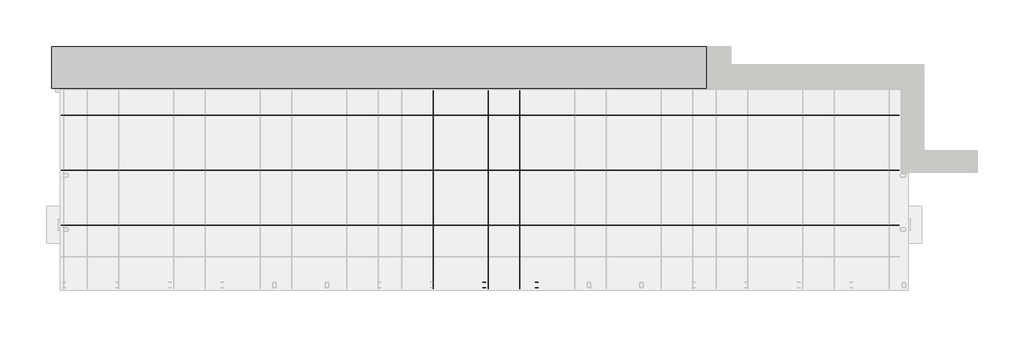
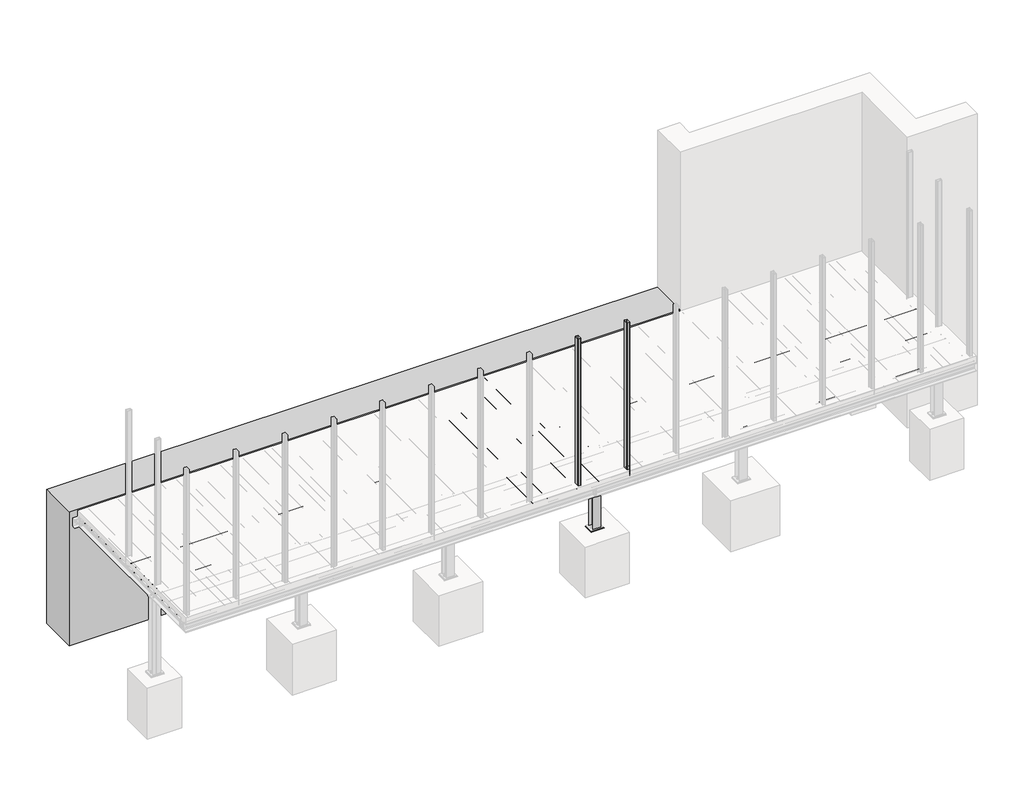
# One storey, part 3 of 36: 54 beams, 3 columns, 1 plate.
"""IFC4 building model written with IfcOpenShell, lengths in millimetres."""

from ifc_helpers import new_model, si_unit, point, frame, frame_2d, origin, place, context, project, spatial, polyline, circle_curve, trimmed, segment, composite_curve, outline, extrude, faceted_brep, element, save

model = new_model("IFC4")

# Units and contexts
model_context = context("Model", 3, world=origin())
ifc_project = project(units=[si_unit("LENGTHUNIT", "METRE", prefix="MILLI")], contexts=[model_context])

# Site, building, storey
site = spatial("IfcSite", under=ifc_project)
building = spatial("IfcBuilding", under=site)
storey = spatial("IfcBuildingStorey", under=building, Name="Základy", Elevation=-1200.0)

# Beams
placement = place(None, origin())
element("IfcBeam", 1, ObjectType="800*2900", at=placement, inside=storey, context=model_context, shape_type="SweptSolid", body=[
    extrude(outline(polyline([(12300.0, 3860.0), (-200.0, 3860.0), (-200.0, 4660.0), (12300.0, 4660.0), (12300.0, 3860.0)])), frame((0.0, 0.0, -2900.0), z_axis=(0.0, 0.0, 1.0), x_axis=(1.0, 0.0, 0.0)), (0.0, 0.0, 1.0), 2900.0),
])
element("IfcBeam", 2, ObjectType="D12", at=placement, inside=storey, context=model_context, shape_type="SweptSolid", body=[
    extrude(outline(composite_curve([segment(trimmed(circle_curve(frame_2d((3579.992562, -139.0)), 6.0), [point((3573.992562, -139.0))], [point((3585.992562, -139.0))], False, "CARTESIAN"), True, "CONTINUOUS"), segment(trimmed(circle_curve(frame_2d((3579.992562, -139.0)), 6.0), [point((3585.992562, -139.0))], [point((3573.992562, -139.0))], False, "CARTESIAN"), True, "CONTINUOUS")], self_intersect=False)), frame((-40.0, 0.0, 0.0), z_axis=(1.0, 0.0, 0.0), x_axis=(0.0, 1.0, 0.0)), (0.0, 0.0, 1.0), 16035.0),
])
element("IfcBeam", 3, ObjectType="D12", at=placement, inside=storey, context=model_context, shape_type="SweptSolid", body=[
    extrude(outline(composite_curve([segment(trimmed(circle_curve(frame_2d((3329.992562, -139.0)), 6.0), [point((3323.992562, -139.0))], [point((3335.992562, -139.0))], False, "CARTESIAN"), True, "CONTINUOUS"), segment(trimmed(circle_curve(frame_2d((3329.992562, -139.0)), 6.0), [point((3335.992562, -139.0))], [point((3323.992562, -139.0))], False, "CARTESIAN"), True, "CONTINUOUS")], self_intersect=False)), frame((-40.0, 0.0, 0.0), z_axis=(1.0, 0.0, 0.0), x_axis=(0.0, 1.0, 0.0)), (0.0, 0.0, 1.0), 16035.0),
])
element("IfcBeam", 4, ObjectType="D12", at=placement, inside=storey, context=model_context, shape_type="SweptSolid", body=[
    extrude(outline(composite_curve([segment(trimmed(circle_curve(frame_2d((3079.992562, -139.0)), 6.0), [point((3073.992562, -139.0))], [point((3085.992562, -139.0))], False, "CARTESIAN"), True, "CONTINUOUS"), segment(trimmed(circle_curve(frame_2d((3079.992562, -139.0)), 6.0), [point((3085.992562, -139.0))], [point((3073.992562, -139.0))], False, "CARTESIAN"), True, "CONTINUOUS")], self_intersect=False)), frame((-40.0, 0.0, 0.0), z_axis=(1.0, 0.0, 0.0), x_axis=(0.0, 1.0, 0.0)), (0.0, 0.0, 1.0), 16035.0),
])
element("IfcBeam", 5, ObjectType="D12", at=placement, inside=storey, context=model_context, shape_type="SweptSolid", body=[
    extrude(outline(composite_curve([segment(trimmed(circle_curve(frame_2d((2829.992562, -139.0)), 6.0), [point((2823.992562, -139.0))], [point((2835.992562, -139.0))], False, "CARTESIAN"), True, "CONTINUOUS"), segment(trimmed(circle_curve(frame_2d((2829.992562, -139.0)), 6.0), [point((2835.992562, -139.0))], [point((2823.992562, -139.0))], False, "CARTESIAN"), True, "CONTINUOUS")], self_intersect=False)), frame((-40.0, 0.0, 0.0), z_axis=(1.0, 0.0, 0.0), x_axis=(0.0, 1.0, 0.0)), (0.0, 0.0, 1.0), 16035.0),
])
element("IfcBeam", 6, ObjectType="D12", at=placement, inside=storey, context=model_context, shape_type="SweptSolid", body=[
    extrude(outline(composite_curve([segment(trimmed(circle_curve(frame_2d((2579.992562, -139.0)), 6.0), [point((2573.992562, -139.0))], [point((2585.992562, -139.0))], False, "CARTESIAN"), True, "CONTINUOUS"), segment(trimmed(circle_curve(frame_2d((2579.992562, -139.0)), 6.0), [point((2585.992562, -139.0))], [point((2573.992562, -139.0))], False, "CARTESIAN"), True, "CONTINUOUS")], self_intersect=False)), frame((-40.0, 0.0, 0.0), z_axis=(1.0, 0.0, 0.0), x_axis=(0.0, 1.0, 0.0)), (0.0, 0.0, 1.0), 16035.0),
])
element("IfcBeam", 7, ObjectType="D12", at=placement, inside=storey, context=model_context, shape_type="SweptSolid", body=[
    extrude(outline(composite_curve([segment(trimmed(circle_curve(frame_2d((2329.992562, -139.0)), 6.0), [point((2323.992562, -139.0))], [point((2335.992562, -139.0))], False, "CARTESIAN"), True, "CONTINUOUS"), segment(trimmed(circle_curve(frame_2d((2329.992562, -139.0)), 6.0), [point((2335.992562, -139.0))], [point((2323.992562, -139.0))], False, "CARTESIAN"), True, "CONTINUOUS")], self_intersect=False)), frame((-40.0, 0.0, 0.0), z_axis=(1.0, 0.0, 0.0), x_axis=(0.0, 1.0, 0.0)), (0.0, 0.0, 1.0), 16035.0),
])
element("IfcBeam", 8, ObjectType="D12", at=placement, inside=storey, context=model_context, shape_type="SweptSolid", body=[
    extrude(outline(composite_curve([segment(trimmed(circle_curve(frame_2d((1829.992562, -139.0)), 6.0), [point((1823.992562, -139.0))], [point((1835.992562, -139.0))], False, "CARTESIAN"), True, "CONTINUOUS"), segment(trimmed(circle_curve(frame_2d((1829.992562, -139.0)), 6.0), [point((1835.992562, -139.0))], [point((1823.992562, -139.0))], False, "CARTESIAN"), True, "CONTINUOUS")], self_intersect=False)), frame((-40.0, 0.0, 0.0), z_axis=(1.0, 0.0, 0.0), x_axis=(0.0, 1.0, 0.0)), (0.0, 0.0, 1.0), 16180.0),
])
element("IfcBeam", 9, ObjectType="D12", at=placement, inside=storey, context=model_context, shape_type="SweptSolid", body=[
    extrude(outline(composite_curve([segment(trimmed(circle_curve(frame_2d((1579.992562, -139.0)), 6.0), [point((1573.992562, -139.0))], [point((1585.992562, -139.0))], False, "CARTESIAN"), True, "CONTINUOUS"), segment(trimmed(circle_curve(frame_2d((1579.992562, -139.0)), 6.0), [point((1585.992562, -139.0))], [point((1573.992562, -139.0))], False, "CARTESIAN"), True, "CONTINUOUS")], self_intersect=False)), frame((-40.0, 0.0, 0.0), z_axis=(1.0, 0.0, 0.0), x_axis=(0.0, 1.0, 0.0)), (0.0, 0.0, 1.0), 16180.0),
])
element("IfcBeam", 10, ObjectType="D12", at=placement, inside=storey, context=model_context, shape_type="SweptSolid", body=[
    extrude(outline(composite_curve([segment(trimmed(circle_curve(frame_2d((1329.992562, -139.0)), 6.0), [point((1323.992562, -139.0))], [point((1335.992562, -139.0))], False, "CARTESIAN"), True, "CONTINUOUS"), segment(trimmed(circle_curve(frame_2d((1329.992562, -139.0)), 6.0), [point((1335.992562, -139.0))], [point((1323.992562, -139.0))], False, "CARTESIAN"), True, "CONTINUOUS")], self_intersect=False)), frame((-40.0, 0.0, 0.0), z_axis=(1.0, 0.0, 0.0), x_axis=(0.0, 1.0, 0.0)), (0.0, 0.0, 1.0), 16180.0),
])
element("IfcBeam", 11, ObjectType="D12", at=placement, inside=storey, context=model_context, shape_type="SweptSolid", body=[
    extrude(outline(composite_curve([segment(trimmed(circle_curve(frame_2d((1079.992562, -139.0)), 6.0), [point((1073.992562, -139.0))], [point((1085.992562, -139.0))], False, "CARTESIAN"), True, "CONTINUOUS"), segment(trimmed(circle_curve(frame_2d((1079.992562, -139.0)), 6.0), [point((1085.992562, -139.0))], [point((1073.992562, -139.0))], False, "CARTESIAN"), True, "CONTINUOUS")], self_intersect=False)), frame((-40.0, 0.0, 0.0), z_axis=(1.0, 0.0, 0.0), x_axis=(0.0, 1.0, 0.0)), (0.0, 0.0, 1.0), 16180.0),
])
element("IfcBeam", 12, ObjectType="D12", at=placement, inside=storey, context=model_context, shape_type="SweptSolid", body=[
    extrude(outline(composite_curve([segment(trimmed(circle_curve(frame_2d((829.992562, -139.0)), 6.0), [point((823.992562, -139.0))], [point((835.992562, -139.0))], False, "CARTESIAN"), True, "CONTINUOUS"), segment(trimmed(circle_curve(frame_2d((829.992562, -139.0)), 6.0), [point((835.992562, -139.0))], [point((823.992562, -139.0))], False, "CARTESIAN"), True, "CONTINUOUS")], self_intersect=False)), frame((-40.0, 0.0, 0.0), z_axis=(1.0, 0.0, 0.0), x_axis=(0.0, 1.0, 0.0)), (0.0, 0.0, 1.0), 16180.0),
])
element("IfcBeam", 13, ObjectType="D12", at=placement, inside=storey, context=model_context, shape_type="SweptSolid", body=[
    extrude(outline(composite_curve([segment(trimmed(circle_curve(frame_2d((579.992562, -139.0)), 6.0), [point((573.992562, -139.0))], [point((585.992562, -139.0))], False, "CARTESIAN"), True, "CONTINUOUS"), segment(trimmed(circle_curve(frame_2d((579.992562, -139.0)), 6.0), [point((585.992562, -139.0))], [point((573.992562, -139.0))], False, "CARTESIAN"), True, "CONTINUOUS")], self_intersect=False)), frame((-40.0, 0.0, 0.0), z_axis=(1.0, 0.0, 0.0), x_axis=(0.0, 1.0, 0.0)), (0.0, 0.0, 1.0), 16180.0),
])
element("IfcBeam", 14, ObjectType="D12", at=placement, inside=storey, context=model_context, shape_type="SweptSolid", body=[
    extrude(outline(composite_curve([segment(trimmed(circle_curve(frame_2d((329.992562, -139.0)), 6.0), [point((323.992562, -139.0))], [point((335.992562, -139.0))], False, "CARTESIAN"), True, "CONTINUOUS"), segment(trimmed(circle_curve(frame_2d((329.992562, -139.0)), 6.0), [point((335.992562, -139.0))], [point((323.992562, -139.0))], False, "CARTESIAN"), True, "CONTINUOUS")], self_intersect=False)), frame((-40.0, 0.0, 0.0), z_axis=(1.0, 0.0, 0.0), x_axis=(0.0, 1.0, 0.0)), (0.0, 0.0, 1.0), 16180.0),
])
element("IfcBeam", 15, ObjectType="D8", at=placement, inside=storey, context=model_context, shape_type="SweptSolid", body=[
    extrude(outline(composite_curve([segment(trimmed(circle_curve(frame_2d((3799.9975821, -57.0)), 4.0), [point((3795.9975821, -57.0))], [point((3803.9975821, -57.0))], False, "CARTESIAN"), True, "CONTINUOUS"), segment(trimmed(circle_curve(frame_2d((3799.9975821, -57.0)), 4.0), [point((3803.9975821, -57.0))], [point((3795.9975821, -57.0))], False, "CARTESIAN"), True, "CONTINUOUS")], self_intersect=False)), frame((-15.0, 0.0, 0.0), z_axis=(1.0, 0.0, 0.0), x_axis=(0.0, 1.0, 0.0)), (0.0, 0.0, 1.0), 15985.0),
])
element("IfcBeam", 16, ObjectType="D8", at=placement, inside=storey, context=model_context, shape_type="SweptSolid", body=[
    extrude(outline(composite_curve([segment(trimmed(circle_curve(frame_2d((3649.9975821, -57.0)), 4.0), [point((3645.9975821, -57.0))], [point((3653.9975821, -57.0))], False, "CARTESIAN"), True, "CONTINUOUS"), segment(trimmed(circle_curve(frame_2d((3649.9975821, -57.0)), 4.0), [point((3653.9975821, -57.0))], [point((3645.9975821, -57.0))], False, "CARTESIAN"), True, "CONTINUOUS")], self_intersect=False)), frame((-15.0, 0.0, 0.0), z_axis=(1.0, 0.0, 0.0), x_axis=(0.0, 1.0, 0.0)), (0.0, 0.0, 1.0), 15985.0),
])
element("IfcBeam", 17, ObjectType="D8", at=placement, inside=storey, context=model_context, shape_type="SweptSolid", body=[
    extrude(outline(composite_curve([segment(trimmed(circle_curve(frame_2d((3499.9975821, -57.0)), 4.0), [point((3495.9975821, -57.0))], [point((3503.9975821, -57.0))], False, "CARTESIAN"), True, "CONTINUOUS"), segment(trimmed(circle_curve(frame_2d((3499.9975821, -57.0)), 4.0), [point((3503.9975821, -57.0))], [point((3495.9975821, -57.0))], False, "CARTESIAN"), True, "CONTINUOUS")], self_intersect=False)), frame((-15.0, 0.0, 0.0), z_axis=(1.0, 0.0, 0.0), x_axis=(0.0, 1.0, 0.0)), (0.0, 0.0, 1.0), 15985.0),
])
element("IfcBeam", 18, ObjectType="D8", at=placement, inside=storey, context=model_context, shape_type="SweptSolid", body=[
    extrude(outline(composite_curve([segment(trimmed(circle_curve(frame_2d((3349.9975821, -57.0)), 4.0), [point((3345.9975821, -57.0))], [point((3353.9975821, -57.0))], False, "CARTESIAN"), True, "CONTINUOUS"), segment(trimmed(circle_curve(frame_2d((3349.9975821, -57.0)), 4.0), [point((3353.9975821, -57.0))], [point((3345.9975821, -57.0))], False, "CARTESIAN"), True, "CONTINUOUS")], self_intersect=False)), frame((-15.0, 0.0, 0.0), z_axis=(1.0, 0.0, 0.0), x_axis=(0.0, 1.0, 0.0)), (0.0, 0.0, 1.0), 15985.0),
])
element("IfcBeam", 19, ObjectType="D8", at=placement, inside=storey, context=model_context, shape_type="SweptSolid", body=[
    extrude(outline(composite_curve([segment(trimmed(circle_curve(frame_2d((3199.9975821, -57.0)), 4.0), [point((3195.9975821, -57.0))], [point((3203.9975821, -57.0))], False, "CARTESIAN"), True, "CONTINUOUS"), segment(trimmed(circle_curve(frame_2d((3199.9975821, -57.0)), 4.0), [point((3203.9975821, -57.0))], [point((3195.9975821, -57.0))], False, "CARTESIAN"), True, "CONTINUOUS")], self_intersect=False)), frame((-15.0, 0.0, 0.0), z_axis=(1.0, 0.0, 0.0), x_axis=(0.0, 1.0, 0.0)), (0.0, 0.0, 1.0), 15985.0),
])
element("IfcBeam", 20, ObjectType="D8", at=placement, inside=storey, context=model_context, shape_type="SweptSolid", body=[
    extrude(outline(composite_curve([segment(trimmed(circle_curve(frame_2d((3049.9975821, -57.0)), 4.0), [point((3045.9975821, -57.0))], [point((3053.9975821, -57.0))], False, "CARTESIAN"), True, "CONTINUOUS"), segment(trimmed(circle_curve(frame_2d((3049.9975821, -57.0)), 4.0), [point((3053.9975821, -57.0))], [point((3045.9975821, -57.0))], False, "CARTESIAN"), True, "CONTINUOUS")], self_intersect=False)), frame((-15.0, 0.0, 0.0), z_axis=(1.0, 0.0, 0.0), x_axis=(0.0, 1.0, 0.0)), (0.0, 0.0, 1.0), 15985.0),
])
element("IfcBeam", 21, ObjectType="D8", at=placement, inside=storey, context=model_context, shape_type="SweptSolid", body=[
    extrude(outline(composite_curve([segment(trimmed(circle_curve(frame_2d((2899.9975821, -57.0)), 4.0), [point((2895.9975821, -57.0))], [point((2903.9975821, -57.0))], False, "CARTESIAN"), True, "CONTINUOUS"), segment(trimmed(circle_curve(frame_2d((2899.9975821, -57.0)), 4.0), [point((2903.9975821, -57.0))], [point((2895.9975821, -57.0))], False, "CARTESIAN"), True, "CONTINUOUS")], self_intersect=False)), frame((-15.0, 0.0, 0.0), z_axis=(1.0, 0.0, 0.0), x_axis=(0.0, 1.0, 0.0)), (0.0, 0.0, 1.0), 15985.0),
])
element("IfcBeam", 22, ObjectType="D8", at=placement, inside=storey, context=model_context, shape_type="SweptSolid", body=[
    extrude(outline(composite_curve([segment(trimmed(circle_curve(frame_2d((2749.9975821, -57.0)), 4.0), [point((2745.9975821, -57.0))], [point((2753.9975821, -57.0))], False, "CARTESIAN"), True, "CONTINUOUS"), segment(trimmed(circle_curve(frame_2d((2749.9975821, -57.0)), 4.0), [point((2753.9975821, -57.0))], [point((2745.9975821, -57.0))], False, "CARTESIAN"), True, "CONTINUOUS")], self_intersect=False)), frame((-15.0, 0.0, 0.0), z_axis=(1.0, 0.0, 0.0), x_axis=(0.0, 1.0, 0.0)), (0.0, 0.0, 1.0), 15985.0),
])
element("IfcBeam", 23, ObjectType="D8", at=placement, inside=storey, context=model_context, shape_type="SweptSolid", body=[
    extrude(outline(composite_curve([segment(trimmed(circle_curve(frame_2d((2599.9975821, -57.0)), 4.0), [point((2595.9975821, -57.0))], [point((2603.9975821, -57.0))], False, "CARTESIAN"), True, "CONTINUOUS"), segment(trimmed(circle_curve(frame_2d((2599.9975821, -57.0)), 4.0), [point((2603.9975821, -57.0))], [point((2595.9975821, -57.0))], False, "CARTESIAN"), True, "CONTINUOUS")], self_intersect=False)), frame((-15.0, 0.0, 0.0), z_axis=(1.0, 0.0, 0.0), x_axis=(0.0, 1.0, 0.0)), (0.0, 0.0, 1.0), 15985.0),
])
element("IfcBeam", 24, ObjectType="D8", at=placement, inside=storey, context=model_context, shape_type="SweptSolid", body=[
    extrude(outline(composite_curve([segment(trimmed(circle_curve(frame_2d((2449.9975821, -57.0)), 4.0), [point((2445.9975821, -57.0))], [point((2453.9975821, -57.0))], False, "CARTESIAN"), True, "CONTINUOUS"), segment(trimmed(circle_curve(frame_2d((2449.9975821, -57.0)), 4.0), [point((2453.9975821, -57.0))], [point((2445.9975821, -57.0))], False, "CARTESIAN"), True, "CONTINUOUS")], self_intersect=False)), frame((-15.0, 0.0, 0.0), z_axis=(1.0, 0.0, 0.0), x_axis=(0.0, 1.0, 0.0)), (0.0, 0.0, 1.0), 15985.0),
])
element("IfcBeam", 25, ObjectType="D8", at=placement, inside=storey, context=model_context, shape_type="SweptSolid", body=[
    extrude(outline(composite_curve([segment(trimmed(circle_curve(frame_2d((2299.9975821, -57.0)), 4.0), [point((2295.9975821, -57.0))], [point((2303.9975821, -57.0))], False, "CARTESIAN"), True, "CONTINUOUS"), segment(trimmed(circle_curve(frame_2d((2299.9975821, -57.0)), 4.0), [point((2303.9975821, -57.0))], [point((2295.9975821, -57.0))], False, "CARTESIAN"), True, "CONTINUOUS")], self_intersect=False)), frame((-15.0, 0.0, 0.0), z_axis=(1.0, 0.0, 0.0), x_axis=(0.0, 1.0, 0.0)), (0.0, 0.0, 1.0), 15985.0),
])
element("IfcBeam", 26, ObjectType="D8", at=placement, inside=storey, context=model_context, shape_type="SweptSolid", body=[
    extrude(outline(composite_curve([segment(trimmed(circle_curve(frame_2d((2149.9975821, -57.0)), 4.0), [point((2145.9975821, -57.0))], [point((2153.9975821, -57.0))], False, "CARTESIAN"), True, "CONTINUOUS"), segment(trimmed(circle_curve(frame_2d((2149.9975821, -57.0)), 4.0), [point((2153.9975821, -57.0))], [point((2145.9975821, -57.0))], False, "CARTESIAN"), True, "CONTINUOUS")], self_intersect=False)), frame((-15.0, 0.0, 0.0), z_axis=(1.0, 0.0, 0.0), x_axis=(0.0, 1.0, 0.0)), (0.0, 0.0, 1.0), 15985.0),
])
element("IfcBeam", 27, ObjectType="D8", at=placement, inside=storey, context=model_context, shape_type="SweptSolid", body=[
    extrude(outline(composite_curve([segment(trimmed(circle_curve(frame_2d((1999.9975821, -57.0)), 4.0), [point((1995.9975821, -57.0))], [point((2003.9975821, -57.0))], False, "CARTESIAN"), True, "CONTINUOUS"), segment(trimmed(circle_curve(frame_2d((1999.9975821, -57.0)), 4.0), [point((2003.9975821, -57.0))], [point((1995.9975821, -57.0))], False, "CARTESIAN"), True, "CONTINUOUS")], self_intersect=False)), frame((-15.0, 0.0, 0.0), z_axis=(1.0, 0.0, 0.0), x_axis=(0.0, 1.0, 0.0)), (0.0, 0.0, 1.0), 15985.0),
])
element("IfcBeam", 28, ObjectType="D8", at=placement, inside=storey, context=model_context, shape_type="SweptSolid", body=[
    extrude(outline(composite_curve([segment(trimmed(circle_curve(frame_2d((1849.9975821, -57.0)), 4.0), [point((1845.9975821, -57.0))], [point((1853.9975821, -57.0))], False, "CARTESIAN"), True, "CONTINUOUS"), segment(trimmed(circle_curve(frame_2d((1849.9975821, -57.0)), 4.0), [point((1853.9975821, -57.0))], [point((1845.9975821, -57.0))], False, "CARTESIAN"), True, "CONTINUOUS")], self_intersect=False)), frame((-15.0, 0.0, 0.0), z_axis=(1.0, 0.0, 0.0), x_axis=(0.0, 1.0, 0.0)), (0.0, 0.0, 1.0), 15985.0),
])
element("IfcBeam", 29, ObjectType="D8", at=placement, inside=storey, context=model_context, shape_type="SweptSolid", body=[
    extrude(outline(composite_curve([segment(trimmed(circle_curve(frame_2d((1699.9975821, -57.0)), 4.0), [point((1695.9975821, -57.0))], [point((1703.9975821, -57.0))], False, "CARTESIAN"), True, "CONTINUOUS"), segment(trimmed(circle_curve(frame_2d((1699.9975821, -57.0)), 4.0), [point((1703.9975821, -57.0))], [point((1695.9975821, -57.0))], False, "CARTESIAN"), True, "CONTINUOUS")], self_intersect=False)), frame((-15.0, 0.0, 0.0), z_axis=(1.0, 0.0, 0.0), x_axis=(0.0, 1.0, 0.0)), (0.0, 0.0, 1.0), 15985.0),
])
element("IfcBeam", 30, ObjectType="D8", at=placement, inside=storey, context=model_context, shape_type="SweptSolid", body=[
    extrude(outline(composite_curve([segment(trimmed(circle_curve(frame_2d((1549.9975821, -57.0)), 4.0), [point((1545.9975821, -57.0))], [point((1553.9975821, -57.0))], False, "CARTESIAN"), True, "CONTINUOUS"), segment(trimmed(circle_curve(frame_2d((1549.9975821, -57.0)), 4.0), [point((1553.9975821, -57.0))], [point((1545.9975821, -57.0))], False, "CARTESIAN"), True, "CONTINUOUS")], self_intersect=False)), frame((-15.0, 0.0, 0.0), z_axis=(1.0, 0.0, 0.0), x_axis=(0.0, 1.0, 0.0)), (0.0, 0.0, 1.0), 15985.0),
])
element("IfcBeam", 31, ObjectType="D8", at=placement, inside=storey, context=model_context, shape_type="SweptSolid", body=[
    extrude(outline(composite_curve([segment(trimmed(circle_curve(frame_2d((1399.9975821, -57.0)), 4.0), [point((1395.9975821, -57.0))], [point((1403.9975821, -57.0))], False, "CARTESIAN"), True, "CONTINUOUS"), segment(trimmed(circle_curve(frame_2d((1399.9975821, -57.0)), 4.0), [point((1403.9975821, -57.0))], [point((1395.9975821, -57.0))], False, "CARTESIAN"), True, "CONTINUOUS")], self_intersect=False)), frame((-15.0, 0.0, 0.0), z_axis=(1.0, 0.0, 0.0), x_axis=(0.0, 1.0, 0.0)), (0.0, 0.0, 1.0), 15985.0),
])
element("IfcBeam", 32, ObjectType="D8", at=placement, inside=storey, context=model_context, shape_type="SweptSolid", body=[
    extrude(outline(composite_curve([segment(trimmed(circle_curve(frame_2d((1249.9975821, -57.0)), 4.0), [point((1245.9975821, -57.0))], [point((1253.9975821, -57.0))], False, "CARTESIAN"), True, "CONTINUOUS"), segment(trimmed(circle_curve(frame_2d((1249.9975821, -57.0)), 4.0), [point((1253.9975821, -57.0))], [point((1245.9975821, -57.0))], False, "CARTESIAN"), True, "CONTINUOUS")], self_intersect=False)), frame((-15.0, 0.0, 0.0), z_axis=(1.0, 0.0, 0.0), x_axis=(0.0, 1.0, 0.0)), (0.0, 0.0, 1.0), 15985.0),
])
element("IfcBeam", 33, ObjectType="D8", at=placement, inside=storey, context=model_context, shape_type="SweptSolid", body=[
    extrude(outline(composite_curve([segment(trimmed(circle_curve(frame_2d((1099.9975821, -57.0)), 4.0), [point((1095.9975821, -57.0))], [point((1103.9975821, -57.0))], False, "CARTESIAN"), True, "CONTINUOUS"), segment(trimmed(circle_curve(frame_2d((1099.9975821, -57.0)), 4.0), [point((1103.9975821, -57.0))], [point((1095.9975821, -57.0))], False, "CARTESIAN"), True, "CONTINUOUS")], self_intersect=False)), frame((-15.0, 0.0, 0.0), z_axis=(1.0, 0.0, 0.0), x_axis=(0.0, 1.0, 0.0)), (0.0, 0.0, 1.0), 15985.0),
])
element("IfcBeam", 34, ObjectType="D8", at=placement, inside=storey, context=model_context, shape_type="SweptSolid", body=[
    extrude(outline(composite_curve([segment(trimmed(circle_curve(frame_2d((-49.0, 7077.5)), 4.0), [point((-49.0, 7073.5))], [point((-49.0, 7081.5))], False, "CARTESIAN"), True, "CONTINUOUS"), segment(trimmed(circle_curve(frame_2d((-49.0, 7077.5)), 4.0), [point((-49.0, 7081.5))], [point((-49.0, 7073.5))], False, "CARTESIAN"), True, "CONTINUOUS")], self_intersect=False)), frame((0.0, 35.0, 0.0), z_axis=(0.0, 1.0, 0.0), x_axis=(0.0, 0.0, 1.0)), (0.0, 0.0, 1.0), 3780.0),
])
element("IfcBeam", 35, ObjectType="D8", at=placement, inside=storey, context=model_context, shape_type="SweptSolid", body=[
    extrude(outline(composite_curve([segment(trimmed(circle_curve(frame_2d((-49.0, 7227.5)), 4.0), [point((-49.0, 7223.5))], [point((-49.0, 7231.5))], False, "CARTESIAN"), True, "CONTINUOUS"), segment(trimmed(circle_curve(frame_2d((-49.0, 7227.5)), 4.0), [point((-49.0, 7231.5))], [point((-49.0, 7223.5))], False, "CARTESIAN"), True, "CONTINUOUS")], self_intersect=False)), frame((0.0, 35.0, 0.0), z_axis=(0.0, 1.0, 0.0), x_axis=(0.0, 0.0, 1.0)), (0.0, 0.0, 1.0), 3780.0),
])
element("IfcBeam", 36, ObjectType="D8", at=placement, inside=storey, context=model_context, shape_type="SweptSolid", body=[
    extrude(outline(composite_curve([segment(trimmed(circle_curve(frame_2d((-49.0, 7377.5)), 4.0), [point((-49.0, 7373.5))], [point((-49.0, 7381.5))], False, "CARTESIAN"), True, "CONTINUOUS"), segment(trimmed(circle_curve(frame_2d((-49.0, 7377.5)), 4.0), [point((-49.0, 7381.5))], [point((-49.0, 7373.5))], False, "CARTESIAN"), True, "CONTINUOUS")], self_intersect=False)), frame((0.0, 35.0, 0.0), z_axis=(0.0, 1.0, 0.0), x_axis=(0.0, 0.0, 1.0)), (0.0, 0.0, 1.0), 3780.0),
])
element("IfcBeam", 37, ObjectType="D8", at=placement, inside=storey, context=model_context, shape_type="SweptSolid", body=[
    extrude(outline(composite_curve([segment(trimmed(circle_curve(frame_2d((-49.0, 7527.5)), 4.0), [point((-49.0, 7523.5))], [point((-49.0, 7531.5))], False, "CARTESIAN"), True, "CONTINUOUS"), segment(trimmed(circle_curve(frame_2d((-49.0, 7527.5)), 4.0), [point((-49.0, 7531.5))], [point((-49.0, 7523.5))], False, "CARTESIAN"), True, "CONTINUOUS")], self_intersect=False)), frame((0.0, 35.0, 0.0), z_axis=(0.0, 1.0, 0.0), x_axis=(0.0, 0.0, 1.0)), (0.0, 0.0, 1.0), 3780.0),
])
element("IfcBeam", 38, ObjectType="D8", at=placement, inside=storey, context=model_context, shape_type="SweptSolid", body=[
    extrude(outline(composite_curve([segment(trimmed(circle_curve(frame_2d((-49.0, 7677.5)), 4.0), [point((-49.0, 7673.5))], [point((-49.0, 7681.5))], False, "CARTESIAN"), True, "CONTINUOUS"), segment(trimmed(circle_curve(frame_2d((-49.0, 7677.5)), 4.0), [point((-49.0, 7681.5))], [point((-49.0, 7673.5))], False, "CARTESIAN"), True, "CONTINUOUS")], self_intersect=False)), frame((0.0, 35.0, 0.0), z_axis=(0.0, 1.0, 0.0), x_axis=(0.0, 0.0, 1.0)), (0.0, 0.0, 1.0), 3780.0),
])
element("IfcBeam", 39, ObjectType="D8", at=placement, inside=storey, context=model_context, shape_type="SweptSolid", body=[
    extrude(outline(composite_curve([segment(trimmed(circle_curve(frame_2d((-49.0, 7827.5)), 4.0), [point((-49.0, 7823.5))], [point((-49.0, 7831.5))], False, "CARTESIAN"), True, "CONTINUOUS"), segment(trimmed(circle_curve(frame_2d((-49.0, 7827.5)), 4.0), [point((-49.0, 7831.5))], [point((-49.0, 7823.5))], False, "CARTESIAN"), True, "CONTINUOUS")], self_intersect=False)), frame((0.0, 35.0, 0.0), z_axis=(0.0, 1.0, 0.0), x_axis=(0.0, 0.0, 1.0)), (0.0, 0.0, 1.0), 3780.0),
])
element("IfcBeam", 40, ObjectType="D8", at=placement, inside=storey, context=model_context, shape_type="SweptSolid", body=[
    extrude(outline(composite_curve([segment(trimmed(circle_curve(frame_2d((-49.0, 7977.5)), 4.0), [point((-49.0, 7973.5))], [point((-49.0, 7981.5))], False, "CARTESIAN"), True, "CONTINUOUS"), segment(trimmed(circle_curve(frame_2d((-49.0, 7977.5)), 4.0), [point((-49.0, 7981.5))], [point((-49.0, 7973.5))], False, "CARTESIAN"), True, "CONTINUOUS")], self_intersect=False)), frame((0.0, 35.0, 0.0), z_axis=(0.0, 1.0, 0.0), x_axis=(0.0, 0.0, 1.0)), (0.0, 0.0, 1.0), 3780.0),
])
element("IfcBeam", 41, ObjectType="D8", at=placement, inside=storey, context=model_context, shape_type="SweptSolid", body=[
    extrude(outline(composite_curve([segment(trimmed(circle_curve(frame_2d((-49.0, 8127.5)), 4.0), [point((-49.0, 8123.5))], [point((-49.0, 8131.5))], False, "CARTESIAN"), True, "CONTINUOUS"), segment(trimmed(circle_curve(frame_2d((-49.0, 8127.5)), 4.0), [point((-49.0, 8131.5))], [point((-49.0, 8123.5))], False, "CARTESIAN"), True, "CONTINUOUS")], self_intersect=False)), frame((0.0, 35.0, 0.0), z_axis=(0.0, 1.0, 0.0), x_axis=(0.0, 0.0, 1.0)), (0.0, 0.0, 1.0), 3780.0),
])
element("IfcBeam", 42, ObjectType="D8", at=placement, inside=storey, context=model_context, shape_type="SweptSolid", body=[
    extrude(outline(composite_curve([segment(trimmed(circle_curve(frame_2d((-49.0, 8277.5)), 4.0), [point((-49.0, 8273.5))], [point((-49.0, 8281.5))], False, "CARTESIAN"), True, "CONTINUOUS"), segment(trimmed(circle_curve(frame_2d((-49.0, 8277.5)), 4.0), [point((-49.0, 8281.5))], [point((-49.0, 8273.5))], False, "CARTESIAN"), True, "CONTINUOUS")], self_intersect=False)), frame((0.0, 35.0, 0.0), z_axis=(0.0, 1.0, 0.0), x_axis=(0.0, 0.0, 1.0)), (0.0, 0.0, 1.0), 3780.0),
])
element("IfcBeam", 43, ObjectType="D8", at=placement, inside=storey, context=model_context, shape_type="SweptSolid", body=[
    extrude(outline(composite_curve([segment(trimmed(circle_curve(frame_2d((-49.0, 8427.5)), 4.0), [point((-49.0, 8423.5))], [point((-49.0, 8431.5))], False, "CARTESIAN"), True, "CONTINUOUS"), segment(trimmed(circle_curve(frame_2d((-49.0, 8427.5)), 4.0), [point((-49.0, 8431.5))], [point((-49.0, 8423.5))], False, "CARTESIAN"), True, "CONTINUOUS")], self_intersect=False)), frame((0.0, 35.0, 0.0), z_axis=(0.0, 1.0, 0.0), x_axis=(0.0, 0.0, 1.0)), (0.0, 0.0, 1.0), 3780.0),
])
element("IfcBeam", 44, ObjectType="D8", at=placement, inside=storey, context=model_context, shape_type="SweptSolid", body=[
    extrude(outline(composite_curve([segment(trimmed(circle_curve(frame_2d((-49.0, 8577.5)), 4.0), [point((-49.0, 8573.5))], [point((-49.0, 8581.5))], False, "CARTESIAN"), True, "CONTINUOUS"), segment(trimmed(circle_curve(frame_2d((-49.0, 8577.5)), 4.0), [point((-49.0, 8581.5))], [point((-49.0, 8573.5))], False, "CARTESIAN"), True, "CONTINUOUS")], self_intersect=False)), frame((0.0, 35.0, 0.0), z_axis=(0.0, 1.0, 0.0), x_axis=(0.0, 0.0, 1.0)), (0.0, 0.0, 1.0), 3780.0),
])
element("IfcBeam", 45, ObjectType="D8", at=placement, inside=storey, context=model_context, shape_type="SweptSolid", body=[
    extrude(outline(composite_curve([segment(trimmed(circle_curve(frame_2d((-49.0, 8727.5)), 4.0), [point((-49.0, 8723.5))], [point((-49.0, 8731.5))], False, "CARTESIAN"), True, "CONTINUOUS"), segment(trimmed(circle_curve(frame_2d((-49.0, 8727.5)), 4.0), [point((-49.0, 8731.5))], [point((-49.0, 8723.5))], False, "CARTESIAN"), True, "CONTINUOUS")], self_intersect=False)), frame((0.0, 35.0, 0.0), z_axis=(0.0, 1.0, 0.0), x_axis=(0.0, 0.0, 1.0)), (0.0, 0.0, 1.0), 3780.0),
])
element("IfcBeam", 46, ObjectType="D8", at=placement, inside=storey, context=model_context, shape_type="SweptSolid", body=[
    extrude(outline(composite_curve([segment(trimmed(circle_curve(frame_2d((-49.0, 8877.5)), 4.0), [point((-49.0, 8873.5))], [point((-49.0, 8881.5))], False, "CARTESIAN"), True, "CONTINUOUS"), segment(trimmed(circle_curve(frame_2d((-49.0, 8877.5)), 4.0), [point((-49.0, 8881.5))], [point((-49.0, 8873.5))], False, "CARTESIAN"), True, "CONTINUOUS")], self_intersect=False)), frame((0.0, 35.0, 0.0), z_axis=(0.0, 1.0, 0.0), x_axis=(0.0, 0.0, 1.0)), (0.0, 0.0, 1.0), 3780.0),
])
element("IfcBeam", 47, ObjectType="D8", at=placement, inside=storey, context=model_context, shape_type="SweptSolid", body=[
    extrude(outline(composite_curve([segment(trimmed(circle_curve(frame_2d((-49.0, 9027.5)), 4.0), [point((-49.0, 9023.5))], [point((-49.0, 9031.5))], False, "CARTESIAN"), True, "CONTINUOUS"), segment(trimmed(circle_curve(frame_2d((-49.0, 9027.5)), 4.0), [point((-49.0, 9031.5))], [point((-49.0, 9023.5))], False, "CARTESIAN"), True, "CONTINUOUS")], self_intersect=False)), frame((0.0, 35.0, 0.0), z_axis=(0.0, 1.0, 0.0), x_axis=(0.0, 0.0, 1.0)), (0.0, 0.0, 1.0), 3780.0),
])
element("IfcBeam", 48, ObjectType="HEA120", at=placement, inside=storey, context=model_context, shape_type="SweptSolid", body=[
    extrude(outline(composite_curve([segment(polyline([(1200.0, -193.0), (1320.0, -193.0), (1320.0, -201.0), (1274.5, -201.0)]), True, "CONTINUOUS"), segment(trimmed(circle_curve(frame_2d((1274.5, -213.0)), 12.0), [point((1274.5, -201.0))], [point((1262.5, -213.0))], True, "CARTESIAN"), True, "CONTINUOUS"), segment(polyline([(1262.5, -213.0), (1262.5, -287.0)]), True, "CONTINUOUS"), segment(trimmed(circle_curve(frame_2d((1274.5, -287.0)), 12.0), [point((1262.5, -287.0))], [point((1274.5, -299.0))], True, "CARTESIAN"), True, "CONTINUOUS"), segment(polyline([(1274.5, -299.0), (1320.0, -299.0), (1320.0, -307.0), (1200.0, -307.0), (1200.0, -299.0), (1245.5, -299.0)]), True, "CONTINUOUS"), segment(trimmed(circle_curve(frame_2d((1245.5, -287.0)), 12.0), [point((1245.5, -299.0))], [point((1257.5, -287.0))], True, "CARTESIAN"), True, "CONTINUOUS"), segment(polyline([(1257.5, -287.0), (1257.5, -213.0)]), True, "CONTINUOUS"), segment(trimmed(circle_curve(frame_2d((1245.5, -213.0)), 12.0), [point((1257.5, -213.0))], [point((1245.5, -201.0))], True, "CARTESIAN"), True, "CONTINUOUS"), segment(polyline([(1245.5, -201.0), (1200.0, -201.0), (1200.0, -193.0)]), True, "CONTINUOUS")], self_intersect=False)), frame((6160.0, 0.0, 0.0), z_axis=(1.0, 0.0, 0.0), x_axis=(0.0, 1.0, 0.0)), (0.0, 0.0, 1.0), 2780.0),
])
element("IfcBeam", 49, ObjectType="HEB180", at=placement, inside=storey, context=model_context, shape_type="SweptSolid", body=[
    extrude(outline(composite_curve([segment(polyline([(-340.0, 9140.0), (-326.0, 9140.0), (-326.0, 9069.25)]), True, "CONTINUOUS"), segment(trimmed(circle_curve(frame_2d((-311.0, 9069.25)), 15.0), [point((-326.0, 9069.25))], [point((-311.0, 9054.25))], True, "CARTESIAN"), True, "CONTINUOUS"), segment(polyline([(-311.0, 9054.25), (-189.0, 9054.25)]), True, "CONTINUOUS"), segment(trimmed(circle_curve(frame_2d((-189.0, 9069.25)), 15.0), [point((-189.0, 9054.25))], [point((-174.0, 9069.25))], True, "CARTESIAN"), True, "CONTINUOUS"), segment(polyline([(-174.0, 9069.25), (-174.0, 9140.0), (-160.0, 9140.0), (-160.0, 8960.0), (-174.0, 8960.0), (-174.0, 9030.75)]), True, "CONTINUOUS"), segment(trimmed(circle_curve(frame_2d((-189.0, 9030.75)), 15.0), [point((-174.0, 9030.75))], [point((-189.0, 9045.75))], True, "CARTESIAN"), True, "CONTINUOUS"), segment(polyline([(-189.0, 9045.75), (-311.0, 9045.75)]), True, "CONTINUOUS"), segment(trimmed(circle_curve(frame_2d((-311.0, 9030.75)), 15.0), [point((-311.0, 9045.75))], [point((-326.0, 9030.75))], True, "CARTESIAN"), True, "CONTINUOUS"), segment(polyline([(-326.0, 9030.75), (-326.0, 8960.0), (-340.0, 8960.0), (-340.0, 9140.0)]), True, "CONTINUOUS")], self_intersect=False)), frame((0.0, 210.0, 0.0), z_axis=(0.0, 1.0, 0.0), x_axis=(0.0, 0.0, 1.0)), (0.0, 0.0, 1.0), 3557.0),
])
element("IfcBeam", 50, ObjectType="TR50/250", at=placement, inside=storey, context=model_context, shape_type="SweptSolid", body=[
    extrude(outline(polyline([(3802.7875602, -160.0099992), (3772.2875602, -111.5000008), (3637.6975638, -111.5000008), (3607.1975638, -160.0000008), (3552.7875754, -160.0000008), (3522.2875754, -111.5000008), (3387.6975715, -111.5000008), (3357.1975715, -160.0000008), (3302.7875697, -160.0000008), (3272.2875716, -111.5000008), (3137.6975638, -111.5000008), (3107.1975638, -160.0000008), (3052.7875602, -160.0000008), (3022.2875602, -111.5000008), (2887.6975638, -111.5000008), (2857.1975638, -160.0000008), (2802.7875602, -160.0000008), (2790.7375724, -139.4300002), (2803.1975638, -159.2500008), (2856.7875602, -159.2500008), (2887.2875602, -110.7500008), (3022.6975638, -110.7500008), (3053.1975638, -159.2500008), (3106.7875754, -159.2500008), (3137.2875754, -110.7500008), (3272.6975715, -110.7500008), (3303.1975695, -159.2500008), (3356.7875716, -159.2500008), (3387.2875678, -110.7500008), (3522.6975638, -110.7500008), (3553.1975638, -159.2500008), (3606.7875602, -159.2500008), (3637.2875602, -110.7500008), (3772.6975638, -110.7500008), (3803.1975638, -159.2500008), (3839.9975821, -160.0000008), (3802.7875602, -160.0099992)])), frame((2960.0, 0.0, 0.0), z_axis=(1.0, 0.0, 0.0), x_axis=(0.0, 1.0, 0.0)), (0.0, 0.0, 1.0), 3180.0),
])
element("IfcBeam", 51, ObjectType="TR50/250", at=placement, inside=storey, context=model_context, shape_type="SweptSolid", body=[
    extrude(outline(polyline([(2802.7875602, -160.0099992), (2772.2875602, -111.5000008), (2637.6975638, -111.5000008), (2607.1975638, -160.0000008), (2552.7875754, -160.0000008), (2522.2875754, -111.5000008), (2387.6975715, -111.5000008), (2357.1975715, -160.0000008), (2302.7875697, -160.0000008), (2272.2875716, -111.5000008), (2137.6975638, -111.5000008), (2107.1975638, -160.0000008), (2052.7875602, -160.0000008), (2022.2875602, -111.5000008), (1887.6975638, -111.5000008), (1857.1975638, -160.0000008), (1802.7875602, -160.0000008), (1790.7375724, -139.4300002), (1803.1975638, -159.2500008), (1856.7875602, -159.2500008), (1887.2875602, -110.7500008), (2022.6975638, -110.7500008), (2053.1975638, -159.2500008), (2106.7875754, -159.2500008), (2137.2875754, -110.7500008), (2272.6975715, -110.7500008), (2303.1975695, -159.2500008), (2356.7875716, -159.2500008), (2387.2875678, -110.7500008), (2522.6975638, -110.7500008), (2553.1975638, -159.2500008), (2606.7875602, -159.2500008), (2637.2875602, -110.7500008), (2772.6975638, -110.7500008), (2803.1975638, -159.2500008), (2839.9975821, -160.0000008), (2802.7875602, -160.0099992)])), frame((2960.0, 0.0, 0.0), z_axis=(1.0, 0.0, 0.0), x_axis=(0.0, 1.0, 0.0)), (0.0, 0.0, 1.0), 3180.0),
])
element("IfcBeam", 52, ObjectType="TR50/250", at=placement, inside=storey, context=model_context, shape_type="SweptSolid", body=[
    extrude(outline(polyline([(3802.7875602, -160.0099992), (3772.2875602, -111.5000008), (3637.6975638, -111.5000008), (3607.1975638, -160.0000008), (3552.7875754, -160.0000008), (3522.2875754, -111.5000008), (3387.6975715, -111.5000008), (3357.1975715, -160.0000008), (3302.7875697, -160.0000008), (3272.2875716, -111.5000008), (3137.6975638, -111.5000008), (3107.1975638, -160.0000008), (3052.7875602, -160.0000008), (3022.2875602, -111.5000008), (2887.6975638, -111.5000008), (2857.1975638, -160.0000008), (2802.7875602, -160.0000008), (2790.7375724, -139.4300002), (2803.1975638, -159.2500008), (2856.7875602, -159.2500008), (2887.2875602, -110.7500008), (3022.6975638, -110.7500008), (3053.1975638, -159.2500008), (3106.7875754, -159.2500008), (3137.2875754, -110.7500008), (3272.6975715, -110.7500008), (3303.1975695, -159.2500008), (3356.7875716, -159.2500008), (3387.2875678, -110.7500008), (3522.6975638, -110.7500008), (3553.1975638, -159.2500008), (3606.7875602, -159.2500008), (3637.2875602, -110.7500008), (3772.6975638, -110.7500008), (3803.1975638, -159.2500008), (3839.9975821, -160.0000008), (3802.7875602, -160.0099992)])), frame((5960.0, 0.0, 0.0), z_axis=(1.0, 0.0, 0.0), x_axis=(0.0, 1.0, 0.0)), (0.0, 0.0, 1.0), 3180.0),
])
element("IfcBeam", 53, ObjectType="TR50/250", at=placement, inside=storey, context=model_context, shape_type="SweptSolid", body=[
    extrude(outline(polyline([(2802.7875602, -160.0099992), (2772.2875602, -111.5000008), (2637.6975638, -111.5000008), (2607.1975638, -160.0000008), (2552.7875754, -160.0000008), (2522.2875754, -111.5000008), (2387.6975715, -111.5000008), (2357.1975715, -160.0000008), (2302.7875697, -160.0000008), (2272.2875716, -111.5000008), (2137.6975638, -111.5000008), (2107.1975638, -160.0000008), (2052.7875602, -160.0000008), (2022.2875602, -111.5000008), (1887.6975638, -111.5000008), (1857.1975638, -160.0000008), (1802.7875602, -160.0000008), (1790.7375724, -139.4300002), (1803.1975638, -159.2500008), (1856.7875602, -159.2500008), (1887.2875602, -110.7500008), (2022.6975638, -110.7500008), (2053.1975638, -159.2500008), (2106.7875754, -159.2500008), (2137.2875754, -110.7500008), (2272.6975715, -110.7500008), (2303.1975695, -159.2500008), (2356.7875716, -159.2500008), (2387.2875678, -110.7500008), (2522.6975638, -110.7500008), (2553.1975638, -159.2500008), (2606.7875602, -159.2500008), (2637.2875602, -110.7500008), (2772.6975638, -110.7500008), (2803.1975638, -159.2500008), (2839.9975821, -160.0000008), (2802.7875602, -160.0099992)])), frame((5960.0, 0.0, 0.0), z_axis=(1.0, 0.0, 0.0), x_axis=(0.0, 1.0, 0.0)), (0.0, 0.0, 1.0), 3180.0),
])
element("IfcBeam", 54, ObjectType="TR50/250", at=placement, inside=storey, context=model_context, shape_type="SweptSolid", body=[
    extrude(outline(polyline([(1802.7875602, -160.0099992), (1772.2875602, -111.5000008), (1637.6975638, -111.5000008), (1607.1975638, -160.0000008), (1552.7875754, -160.0000008), (1522.2875754, -111.5000008), (1387.6975715, -111.5000008), (1357.1975715, -160.0000008), (1302.7875697, -160.0000008), (1272.2875716, -111.5000008), (1137.6975638, -111.5000008), (1107.1975638, -160.0000008), (1052.7875602, -160.0000008), (1022.2875602, -111.5000008), (887.6975638, -111.5000008), (857.1975638, -160.0000008), (802.7875602, -160.0000008), (790.7375724, -139.4300002), (803.1975638, -159.2500008), (856.7875602, -159.2500008), (887.2875602, -110.7500008), (1022.6975638, -110.7500008), (1053.1975638, -159.2500008), (1106.7875754, -159.2500008), (1137.2875754, -110.7500008), (1272.6975715, -110.7500008), (1303.1975695, -159.2500008), (1356.7875716, -159.2500008), (1387.2875678, -110.7500008), (1522.6975638, -110.7500008), (1553.1975638, -159.2500008), (1606.7875602, -159.2500008), (1637.2875602, -110.7500008), (1772.6975638, -110.7500008), (1803.1975638, -159.2500008), (1839.9975821, -160.0000008), (1802.7875602, -160.0099992)])), frame((5960.0, 0.0, 0.0), z_axis=(1.0, 0.0, 0.0), x_axis=(0.0, 1.0, 0.0)), (0.0, 0.0, 1.0), 3180.0),
])

# Columns
element("IfcColumn", 55, ObjectType="RHS100*60*3.2", at=placement, inside=storey, context=model_context, shape_type="SweptSolid", body=[
    extrude(outline(composite_curve([segment(polyline([(9073.6, 60.0), (9026.4, 60.0)]), True, "CONTINUOUS"), segment(trimmed(circle_curve(frame_2d((9026.4, 66.4)), 6.4), [point((9026.4, 60.0))], [point((9020.0, 66.4))], False, "CARTESIAN"), True, "CONTINUOUS"), segment(polyline([(9020.0, 66.4), (9020.0, 153.6)]), True, "CONTINUOUS"), segment(trimmed(circle_curve(frame_2d((9026.4, 153.6)), 6.4), [point((9020.0, 153.6))], [point((9026.4, 160.0))], False, "CARTESIAN"), True, "CONTINUOUS"), segment(polyline([(9026.4, 160.0), (9073.6, 160.0)]), True, "CONTINUOUS"), segment(trimmed(circle_curve(frame_2d((9073.6, 153.6)), 6.4), [point((9073.6, 160.0))], [point((9080.0, 153.6))], False, "CARTESIAN"), True, "CONTINUOUS"), segment(polyline([(9080.0, 153.6), (9080.0, 66.4)]), True, "CONTINUOUS"), segment(trimmed(circle_curve(frame_2d((9073.6, 66.4)), 6.4), [point((9080.0, 66.4))], [point((9073.6, 60.0))], False, "CARTESIAN"), True, "CONTINUOUS")], self_intersect=False), holes=[composite_curve([segment(trimmed(circle_curve(frame_2d((9073.6, 66.4)), 3.2), [point((9073.6, 63.2))], [point((9076.8, 66.4))], True, "CARTESIAN"), True, "CONTINUOUS"), segment(polyline([(9076.8, 66.4), (9076.8, 153.6)]), True, "CONTINUOUS"), segment(trimmed(circle_curve(frame_2d((9073.6, 153.6)), 3.2), [point((9076.8, 153.6))], [point((9073.6, 156.8))], True, "CARTESIAN"), True, "CONTINUOUS"), segment(polyline([(9073.6, 156.8), (9026.4, 156.8)]), True, "CONTINUOUS"), segment(trimmed(circle_curve(frame_2d((9026.4, 153.6)), 3.2), [point((9026.4, 156.8))], [point((9023.2, 153.6))], True, "CARTESIAN"), True, "CONTINUOUS"), segment(polyline([(9023.2, 153.6), (9023.2, 66.4)]), True, "CONTINUOUS"), segment(trimmed(circle_curve(frame_2d((9026.4, 66.4)), 3.2), [point((9023.2, 66.4))], [point((9026.4, 63.2))], True, "CARTESIAN"), True, "CONTINUOUS"), segment(polyline([(9026.4, 63.2), (9073.6, 63.2)]), True, "CONTINUOUS")], self_intersect=False)]), frame((0.0, 0.0, -160.0), z_axis=(0.0, 0.0, 1.0), x_axis=(1.0, 0.0, 0.0)), (0.0, 0.0, 1.0), 3320.0),
])
element("IfcColumn", 56, ObjectType="RHS100*60*3.2", at=placement, inside=storey, context=model_context, shape_type="SweptSolid", body=[
    extrude(outline(composite_curve([segment(polyline([(8073.6, 60.0), (8026.4, 60.0)]), True, "CONTINUOUS"), segment(trimmed(circle_curve(frame_2d((8026.4, 66.4)), 6.4), [point((8026.4, 60.0))], [point((8020.0, 66.4))], False, "CARTESIAN"), True, "CONTINUOUS"), segment(polyline([(8020.0, 66.4), (8020.0, 153.6)]), True, "CONTINUOUS"), segment(trimmed(circle_curve(frame_2d((8026.4, 153.6)), 6.4), [point((8020.0, 153.6))], [point((8026.4, 160.0))], False, "CARTESIAN"), True, "CONTINUOUS"), segment(polyline([(8026.4, 160.0), (8073.6, 160.0)]), True, "CONTINUOUS"), segment(trimmed(circle_curve(frame_2d((8073.6, 153.6)), 6.4), [point((8073.6, 160.0))], [point((8080.0, 153.6))], False, "CARTESIAN"), True, "CONTINUOUS"), segment(polyline([(8080.0, 153.6), (8080.0, 66.4)]), True, "CONTINUOUS"), segment(trimmed(circle_curve(frame_2d((8073.6, 66.4)), 6.4), [point((8080.0, 66.4))], [point((8073.6, 60.0))], False, "CARTESIAN"), True, "CONTINUOUS")], self_intersect=False), holes=[composite_curve([segment(trimmed(circle_curve(frame_2d((8073.6, 66.4)), 3.2), [point((8073.6, 63.2))], [point((8076.8, 66.4))], True, "CARTESIAN"), True, "CONTINUOUS"), segment(polyline([(8076.8, 66.4), (8076.8, 153.6)]), True, "CONTINUOUS"), segment(trimmed(circle_curve(frame_2d((8073.6, 153.6)), 3.2), [point((8076.8, 153.6))], [point((8073.6, 156.8))], True, "CARTESIAN"), True, "CONTINUOUS"), segment(polyline([(8073.6, 156.8), (8026.4, 156.8)]), True, "CONTINUOUS"), segment(trimmed(circle_curve(frame_2d((8026.4, 153.6)), 3.2), [point((8026.4, 156.8))], [point((8023.2, 153.6))], True, "CARTESIAN"), True, "CONTINUOUS"), segment(polyline([(8023.2, 153.6), (8023.2, 66.4)]), True, "CONTINUOUS"), segment(trimmed(circle_curve(frame_2d((8026.4, 66.4)), 3.2), [point((8023.2, 66.4))], [point((8026.4, 63.2))], True, "CARTESIAN"), True, "CONTINUOUS"), segment(polyline([(8026.4, 63.2), (8073.6, 63.2)]), True, "CONTINUOUS")], self_intersect=False)]), frame((0.0, 0.0, -160.0), z_axis=(0.0, 0.0, 1.0), x_axis=(1.0, 0.0, 0.0)), (0.0, 0.0, 1.0), 3320.0),
])
element("IfcColumn", 57, ObjectType="HEA160", at=placement, inside=storey, context=model_context, shape_type="SweptSolid", body=[
    extrude(outline(composite_curve([segment(polyline([(9130.0, 1184.0), (8970.0, 1184.0), (8970.0, 1193.0), (9032.0, 1193.0)]), True, "CONTINUOUS"), segment(trimmed(circle_curve(frame_2d((9032.0, 1208.0)), 15.0), [point((9032.0, 1193.0))], [point((9047.0, 1208.0))], True, "CARTESIAN"), True, "CONTINUOUS"), segment(polyline([(9047.0, 1208.0), (9047.0, 1312.0)]), True, "CONTINUOUS"), segment(trimmed(circle_curve(frame_2d((9032.0, 1312.0)), 15.0), [point((9047.0, 1312.0))], [point((9032.0, 1327.0))], True, "CARTESIAN"), True, "CONTINUOUS"), segment(polyline([(9032.0, 1327.0), (8970.0, 1327.0), (8970.0, 1336.0), (9130.0, 1336.0), (9130.0, 1327.0), (9068.0, 1327.0)]), True, "CONTINUOUS"), segment(trimmed(circle_curve(frame_2d((9068.0, 1312.0)), 15.0), [point((9068.0, 1327.0))], [point((9053.0, 1312.0))], True, "CARTESIAN"), True, "CONTINUOUS"), segment(polyline([(9053.0, 1312.0), (9053.0, 1208.0)]), True, "CONTINUOUS"), segment(trimmed(circle_curve(frame_2d((9068.0, 1208.0)), 15.0), [point((9053.0, 1208.0))], [point((9068.0, 1193.0))], True, "CARTESIAN"), True, "CONTINUOUS"), segment(polyline([(9068.0, 1193.0), (9130.0, 1193.0), (9130.0, 1184.0)]), True, "CONTINUOUS")], self_intersect=False)), frame((0.0, 0.0, -1975.0), z_axis=(0.0, 0.0, 1.0), x_axis=(1.0, 0.0, 0.0)), (0.0, 0.0, 1.0), 1625.0),
])

# Plate
element("IfcPlate", 58, ObjectType="PL10*212", at=placement, inside=storey, context=model_context, shape_type="Brep", body=[
    faceted_brep([(8925.0, 1356.0, -1990.0), (8925.0, 1164.0, -1990.0), (9175.0, 1164.0, -1990.0), (9175.0, 1356.0, -1990.0), (9185.0, 1154.0, -2000.0), (8915.0, 1154.0, -2000.0), (8915.0, 1366.0, -2000.0), (9185.0, 1366.0, -2000.0)], [[[0, 1, 2, 3]], [[4, 5, 6, 7]], [[5, 4, 2, 1]], [[1, 0, 6, 5]], [[7, 6, 0, 3]], [[3, 2, 4, 7]]]),
])

save(model, "model.ifc")
